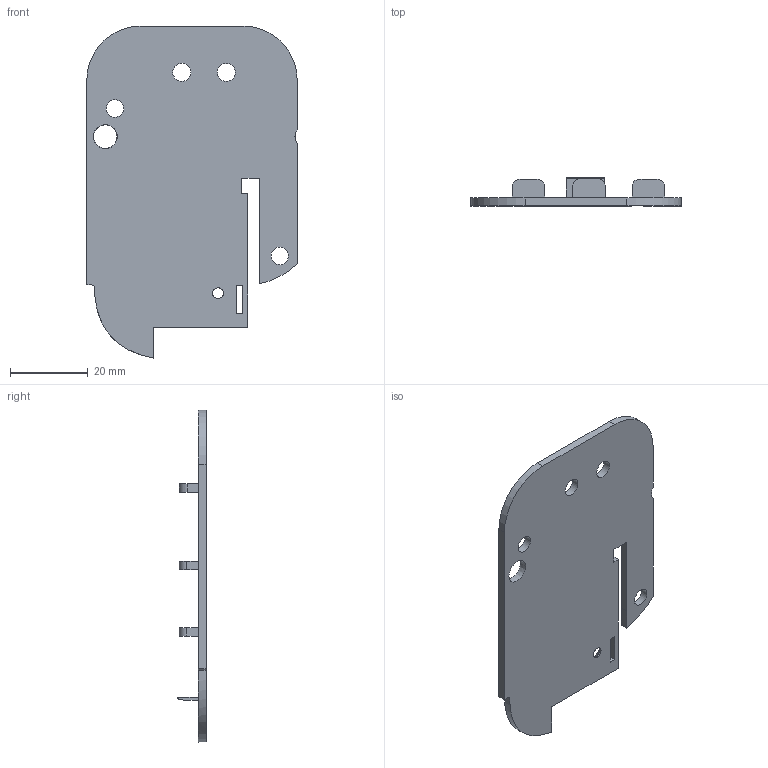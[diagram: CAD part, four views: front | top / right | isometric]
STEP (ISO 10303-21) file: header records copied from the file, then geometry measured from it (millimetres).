
FILE_DESCRIPTION(('HOOPS Exchange Step'),'2;1');
FILE_NAME('C:\Users\Administrator\AppData\Local\Packages\Shapr3D.Shapr3D_j403pzjkqtqbj\TempState\export\temp_export','2023-06-05T11:44:51-07:00',('Administrator'),('Shapr3D Limited'),'HOOPS Exchange 2022.2','Shapr3D','Authorized');
FILE_SCHEMA( ('AUTOMOTIVE_DESIGN { 1 0 10303 214 1 1 1 1 }') );
Length unit declared in the file: millimetre
Products named in the file (1): root
Bounding box: 54.26 x 7.32 x 85.62 mm (x, y, z)
Volume: 7983 mm3; surface area: 8938.1 mm2
Topology: 1 solids, 1 shells, 69 faces, 190 edges, 128 vertices
Faces by surface type: plane 46, cylinder 18, cone 3, bspline 2
Full cylindrical faces by diameter (mm): 2.8 x1, 4.5 x2, 4.65 x2
Entity records: 2325 total; most frequent: CARTESIAN_POINT 470, ORIENTED_EDGE 380, DIRECTION 365, EDGE_CURVE 190, VECTOR 137, LINE 137, VERTEX_POINT 128, AXIS2_PLACEMENT_3D 114
